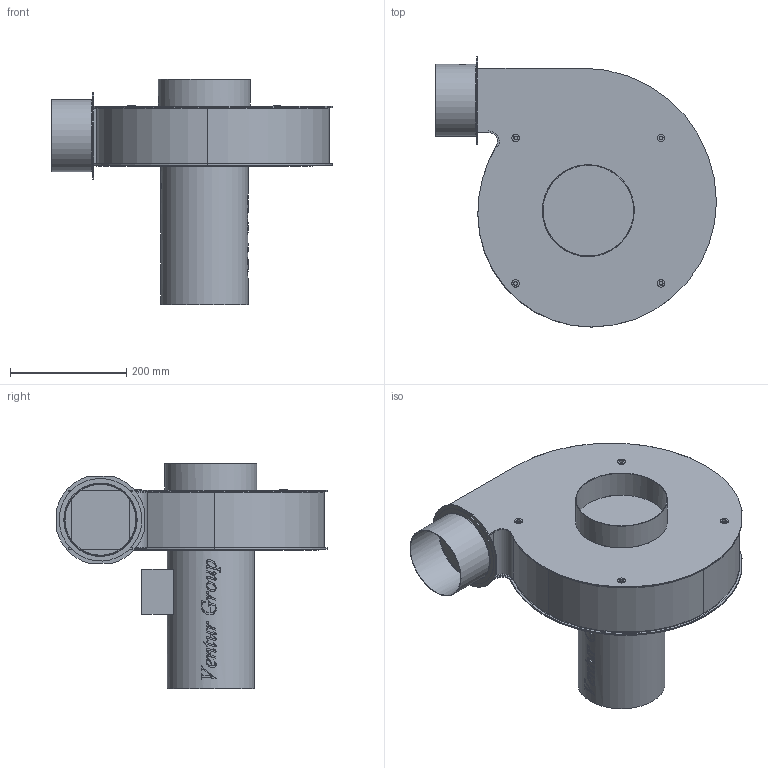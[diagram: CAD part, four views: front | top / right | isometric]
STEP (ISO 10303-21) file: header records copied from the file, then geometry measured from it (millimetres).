
FILE_DESCRIPTION(/* description */ (''),/* implementation_level */ '2;1');
FILE_NAME(/* name */ 'E:\Mariusz\Modele uproszczone\GMT\GMT_130 RD90 43551730 Spiralna\GMT_130 RD90 43551730 Spiralna\GMT_130 RD90 43551730.stp',/* time_stamp */ '2019-03-13T11:18:04+01:00',/* author */ ('M.Janczarek'),/* organization */ (''),/* preprocessor_version */ 'ST-DEVELOPER v16.13',/* originating_system */ 'Autodesk Inventor 2018',/* authorisation */ '');
FILE_SCHEMA (('AUTOMOTIVE_DESIGN { 1 0 10303 214 3 1 1 }'));
Length unit declared in the file: millimetre
Products named in the file (1): GMT_130 RD90 43551730 Spiralna
Bounding box: 482.5 x 464.37 x 387.3 mm (x, y, z)
Volume: 19485919.5 mm3; surface area: 713579.5 mm2
Topology: 1 solids, 1 shells, 524 faces, 1472 edges, 978 vertices
Faces by surface type: bspline 336, plane 91, cylinder 80, torus 13, cone 4
Full cylindrical faces by diameter (mm): 6 x4, 6.6 x4, 13 x4, 122 x1, 124 x1, 142 x1, 150 x1, 156 x1, 158 x1, 370 x1
Entity records: 22377 total; most frequent: CARTESIAN_POINT 11149, ORIENTED_EDGE 2774, EDGE_CURVE 1387, DIRECTION 1387, VERTEX_POINT 936, B_SPLINE_CURVE_WITH_KNOTS 584, LINE 581, VECTOR 581
